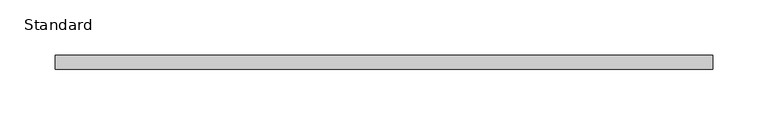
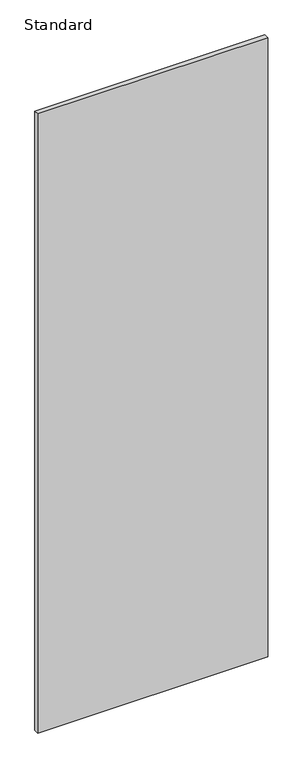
"""IFC4 building model written with IfcOpenShell, lengths in millimetres: furniture geometry, X_Partition-Compact Laminate-Duracube-Door : Standard."""

from ifc_helpers import new_model, si_unit, frame, origin, place, context, project, spatial, polyline, outline, extrude, source, transform, mapped, element, save


def standard_d7bb3af3(model_context):
    return source(origin(), model_context, "Body", "SweptSolid", [
        extrude(outline(polyline([(343.4003264, 0.0), (343.4003264, -13.0), (-253.9996736, -13.0), (-253.9996736, 0.0), (343.4003264, 0.0)])), frame((0.0, 0.0, 200.0), z_axis=(0.0, 0.0, 1.0), x_axis=(1.0, 0.0, 0.0)), (0.0, 0.0, 1.0), 1700.0),
    ])


if __name__ == "__main__":
    model = new_model("IFC4")
    model_context = context("Model", 3, world=origin())
    ifc_project = project(units=[si_unit("LENGTHUNIT", "METRE", prefix="MILLI")], contexts=[model_context])
    site = spatial("IfcSite", under=ifc_project)
    building = spatial("IfcBuilding", under=site)
    placement = place(None, origin())
    standard_shape = standard_d7bb3af3(model_context)
    element("IfcFurniture", 1, ObjectType="X_Partition-Compact Laminate-Duracube-Door : Standard", at=placement, inside=building, context=model_context, shape_type="MappedRepresentation", body=[
        mapped(standard_shape, transform((0.0, 0.0, 0.0), x_axis=(1.0, 0.0, 0.0), y_axis=(0.0, 1.0, 0.0), z_axis=(0.0, 0.0, 1.0))),
    ])
    save(model, "model.ifc")
